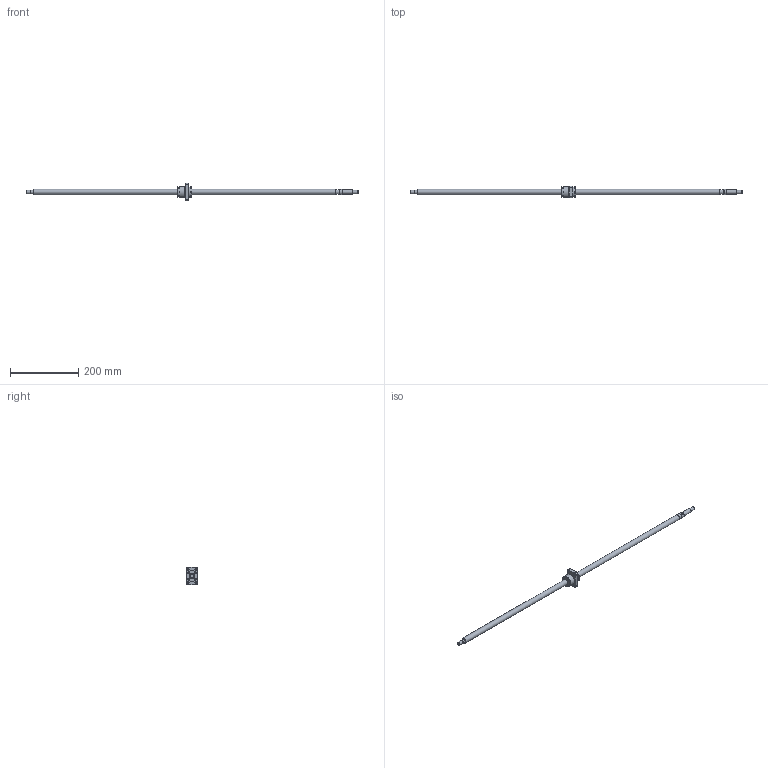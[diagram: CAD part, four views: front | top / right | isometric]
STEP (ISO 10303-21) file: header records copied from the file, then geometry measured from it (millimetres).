
FILE_DESCRIPTION(/* description */ ('STEP AP203'),/* implementation_level */ '2;1');
FILE_NAME(/* name */ 'BNK1616-3.6G0+971LC5Y(4630)',/* time_stamp */ '2024-07-09T09:31:14+02:00',/* author */ ('License CC BY-ND 4.0'),/* organization */ ('CADENAS'),/* preprocessor_version */ 'ST-DEVELOPER v19.3',/* originating_system */ 'PARTsolutions',/* authorisation */ ' ');
FILE_SCHEMA (('CONFIG_CONTROL_DESIGN'));
Length unit declared in the file: millimetre
Products named in the file (3): BNK1616-3.6G0+971LC5Y(4630); BNK 1616-3.6G0+971LC5Y Shaft; BNK 1616-3.6G0+971LC5Y0 Nut
Assembly tree (2 placements, depth 2):
  BNK1616-3.6G0+971LC5Y(4630)
    BNK 1616-3.6G0+971LC5Y Shaft
    BNK 1616-3.6G0+971LC5Y0 Nut
Bounding box: 971 x 34 x 50 mm (x, y, z)
Volume: 218556.5 mm3; surface area: 59423.4 mm2
Topology: 2 solids, 2 shells, 136 faces, 312 edges, 202 vertices
Faces by surface type: plane 75, cylinder 35, cone 20, torus 6
Full cylindrical faces by diameter (mm): 5.188 x1, 5.5 x8, 9.5 x4, 9.6 x1, 10 x3, 12 x1, 14 x1, 15 x1, 16 x2, 28.8 x1, 31.8 x2, 32 x2
Entity records: 3705 total; most frequent: CARTESIAN_POINT 676, DIRECTION 626, ORIENTED_EDGE 530, EDGE_CURVE 265, AXIS2_PLACEMENT_3D 247, FACE_BOUND 210, EDGE_LOOP 209, VERTEX_POINT 197
